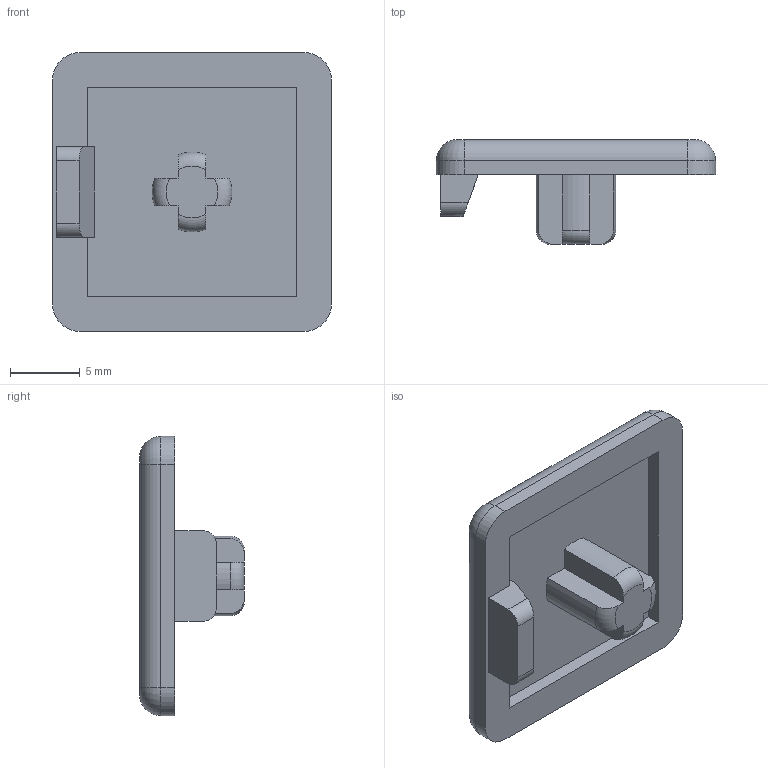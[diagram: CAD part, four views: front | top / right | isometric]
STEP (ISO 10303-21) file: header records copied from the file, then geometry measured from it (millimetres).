
FILE_DESCRIPTION(/* description */ ('STEP AP203'),/* implementation_level */ '2;1');
FILE_NAME(/* name */ '091332S02',/* time_stamp */ '2023-06-28T12:12:22+02:00',/* author */ ('License CC BY-ND 4.0'),/* organization */ ('CADENAS'),/* preprocessor_version */ 'ST-DEVELOPER v19.3',/* originating_system */ 'PARTsolutions',/* authorisation */ ' ');
FILE_SCHEMA (('CONFIG_CONTROL_DESIGN'));
Length unit declared in the file: millimetre
Products named in the file (1): 091332S02
Bounding box: 20 x 7.5 x 20 mm (x, y, z)
Volume: 883.2 mm3; surface area: 1162.9 mm2
Topology: 1 solids, 1 shells, 49 faces, 127 edges, 82 vertices
Faces by surface type: plane 27, cylinder 14, torus 8
Entity records: 1539 total; most frequent: CARTESIAN_POINT 291, DIRECTION 255, ORIENTED_EDGE 254, EDGE_CURVE 127, AXIS2_PLACEMENT_3D 86, LINE 83, VECTOR 83, VERTEX_POINT 82
